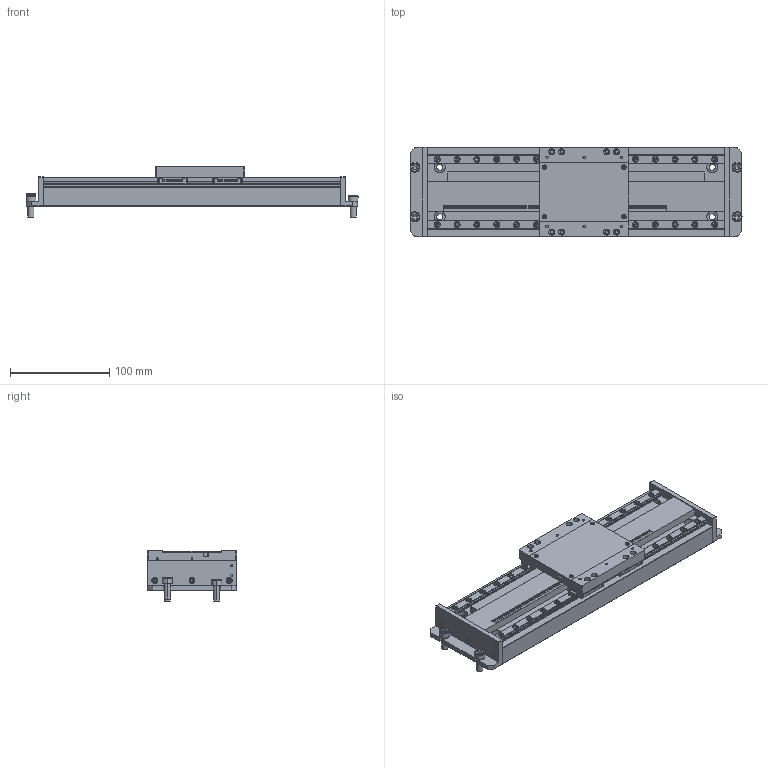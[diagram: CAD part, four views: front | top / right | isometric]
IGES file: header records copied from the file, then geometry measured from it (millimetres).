
Start section: SolidWorks IGES file using analytic representation for surfaces
Bounding box: 335 x 90 x 51 mm (x, y, z)
Surface area: 140772.6 mm2 (no closed solid volume)
Topology: 0 solids, 0 shells, 843 faces, 11711 edges, 11647 vertices
Faces by surface type: bspline 503, revolution 340
